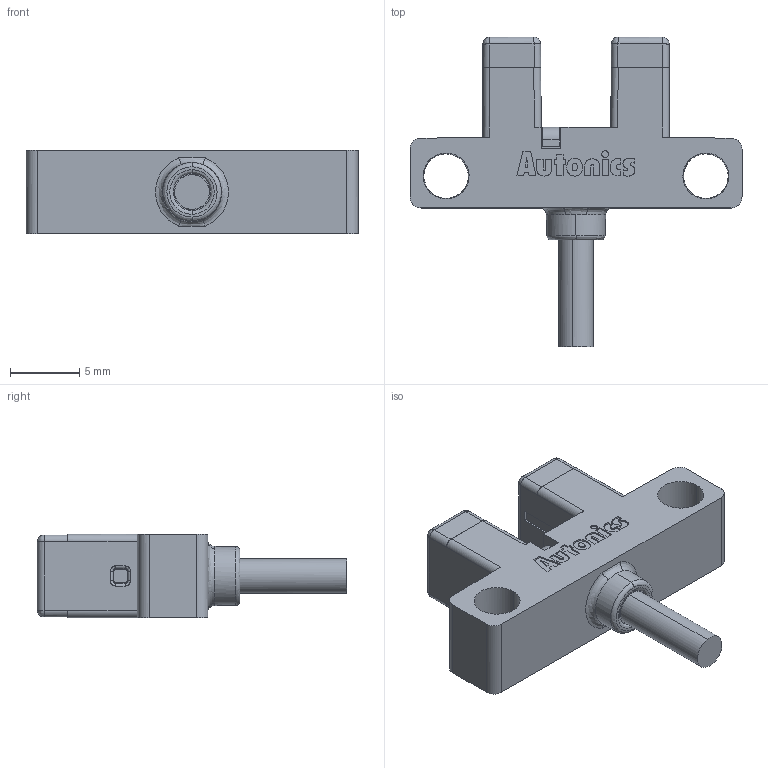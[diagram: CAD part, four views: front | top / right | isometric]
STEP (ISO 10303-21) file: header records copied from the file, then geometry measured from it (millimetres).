
FILE_DESCRIPTION (( 'STEP AP214' ), '1' );
FILE_NAME ('BS3-K1M_BS3-K1M-P_BS3-K1R_BS3-K1R-P.STEP', '2021-04-07T07:06:28', ( '' ), ( '' ), 'SwSTEP 2.0', 'SolidWorks 2018', '' );
FILE_SCHEMA (( 'AUTOMOTIVE_DESIGN' ));
Length unit declared in the file: millimetre
Products named in the file (1): BS3-K1M_BS3-K1M-P_BS3-K1R_BS3-K1R-P
Bounding box: 23.9 x 22.3 x 6 mm (x, y, z)
Volume: 1064.3 mm3; surface area: 1067.5 mm2
Topology: 1 solids, 1 shells, 214 faces, 560 edges, 356 vertices
Faces by surface type: bspline 214
Entity records: 8958 total; most frequent: CARTESIAN_POINT 5235, ORIENTED_EDGE 1104, EDGE_CURVE 552, B_SPLINE_CURVE_WITH_KNOTS 522, VERTEX_POINT 356, EDGE_LOOP 236, FACE_OUTER_BOUND 214, ADVANCED_FACE 214
